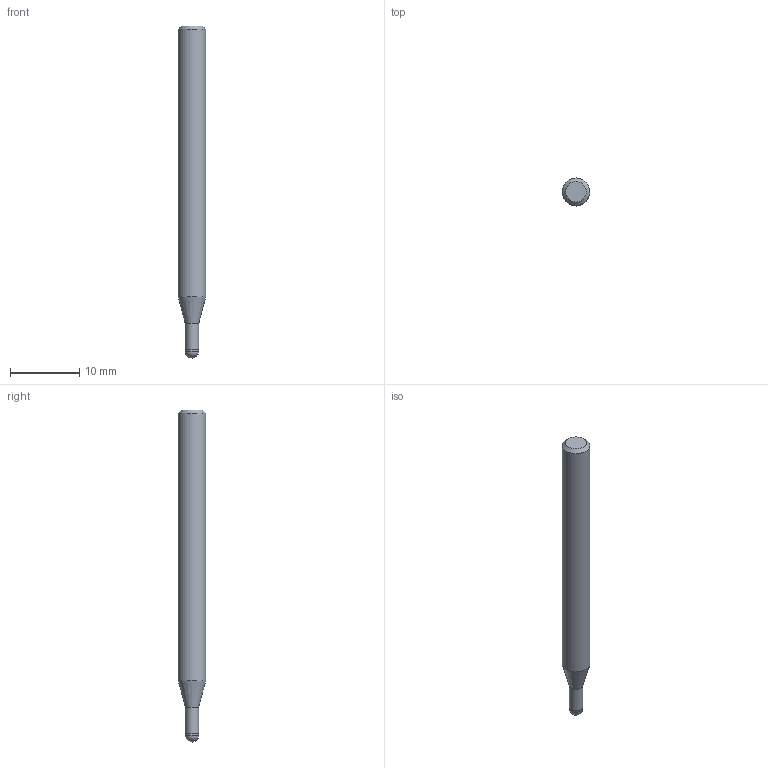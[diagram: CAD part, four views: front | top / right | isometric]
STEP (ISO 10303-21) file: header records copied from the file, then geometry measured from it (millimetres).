
FILE_DESCRIPTION((''),'2;1');
FILE_NAME('C:\Users\nsx150\AppData\Local\Temp\Mastercam 2021\ZQ9VQTH2U1\TEMP.step','2021-10-21T11:06:22',(''),(''),'STEP Write','Mastercam 2021 ... CNC Software, Inc.','');
FILE_SCHEMA(('AUTOMOTIVE_DESIGN'));
Length unit declared in the file: millimetre
Products named in the file (1): None
Bounding box: 4 x 4 x 48 mm (x, y, z)
Volume: 532.3 mm3; surface area: 574.5 mm2
Topology: 2 solids, 2 shells, 9 faces, 14 edges, 8 vertices
Faces by surface type: plane 3, cylinder 3, cone 2, sphere 1
Full cylindrical faces by diameter (mm): 1.94 x1, 2 x1, 4 x1
Entity records: 211 total; most frequent: DIRECTION 36, CARTESIAN_POINT 25, AXIS2_PLACEMENT_3D 18, ORIENTED_EDGE 14, EDGE_LOOP 14, STYLED_ITEM 12, ADVANCED_FACE 9, FACE_BOUND 8
